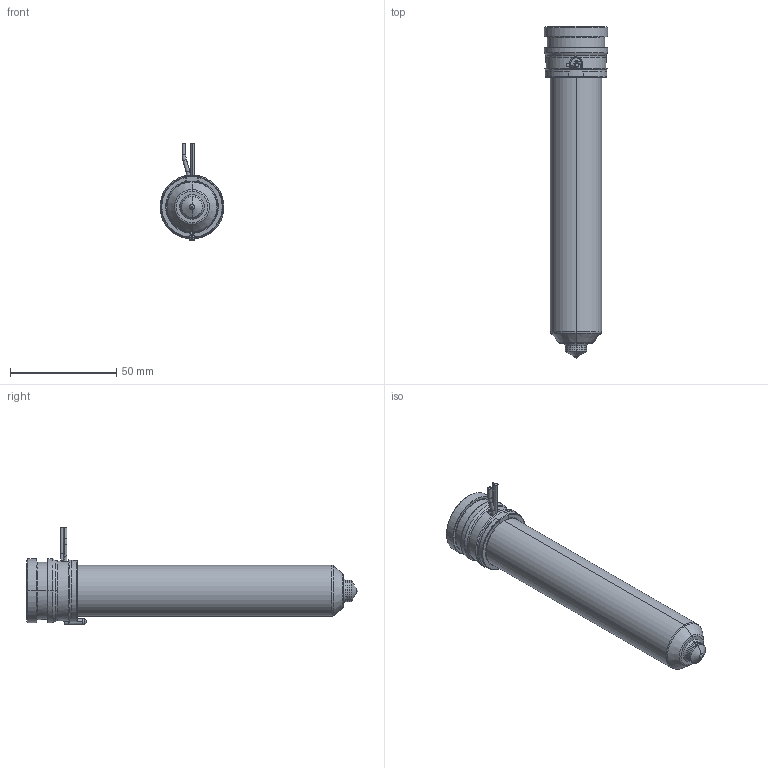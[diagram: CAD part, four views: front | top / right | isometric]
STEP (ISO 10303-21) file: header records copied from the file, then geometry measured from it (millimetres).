
FILE_DESCRIPTION((''),'2;1');
FILE_NAME('MPN-10-29-TS10-136-A','2026-02-05T12:33:26',('UPTIO'),('Thermoplay S.p.A.'),'CREO PARAMETRIC BY PTC INC, 2023494','CREO PARAMETRIC BY PTC INC, 2023494','');
FILE_SCHEMA(('CONFIG_CONTROL_DESIGN','SHAPE_APPEARANCE_LAYERS_GROUPS'));
Length unit declared in the file: millimetre
Products named in the file (1): MPN-10-29-TS10-136-A
Bounding box: 30 x 156 x 46 mm (x, y, z)
Volume: 48976.3 mm3; surface area: 49194.5 mm2
Topology: 2 solids, 3 shells, 552 faces, 1455 edges, 898 vertices
Faces by surface type: cylinder 180, plane 145, bspline 78, torus 68, cone 66, sphere 11, extrusion 4
Entity records: 31300 total; most frequent: CARTESIAN_POINT 14921, ORIENTED_EDGE 2894, DIRECTION 2651, EDGE_CURVE 1447, AXIS2_PLACEMENT_3D 1051, VERTEX_POINT 898, EDGE_LOOP 581, CIRCLE 580
